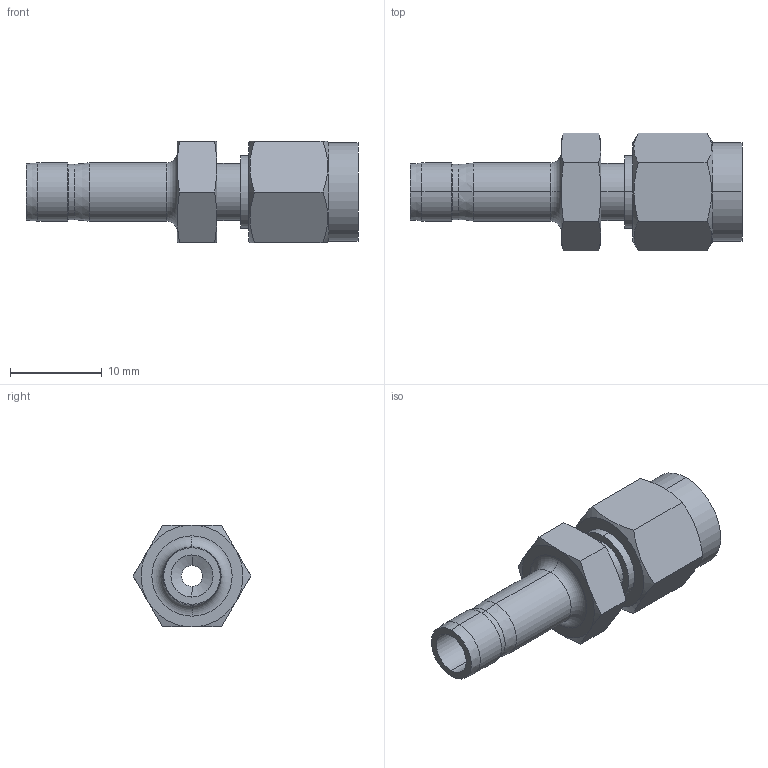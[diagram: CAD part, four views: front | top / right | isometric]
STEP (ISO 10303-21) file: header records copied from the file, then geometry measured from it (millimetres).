
FILE_DESCRIPTION (( 'STEP AP203' ), '1' );
FILE_NAME ('DRE02-04 SS.STEP', '2009-09-08T08:37:02', ( ' ' ), ( '' ), 'SwSTEP 2.0', 'SolidWorks 2008', '' );
FILE_SCHEMA (( 'CONFIG_CONTROL_DESIGN' ));
Length unit declared in the file: millimetre
Products named in the file (1): DRE02-04 SS
Bounding box: 36.2 x 12.83 x 11.11 mm (x, y, z)
Volume: 1889.4 mm3; surface area: 1760.9 mm2
Topology: 1 solids, 1 shells, 63 faces, 138 edges, 82 vertices
Faces by surface type: cone 24, plane 19, cylinder 18, torus 2
Entity records: 1901 total; most frequent: CARTESIAN_POINT 476, DIRECTION 282, ORIENTED_EDGE 276, EDGE_CURVE 138, AXIS2_PLACEMENT_3D 120, VERTEX_POINT 82, EDGE_LOOP 70, ADVANCED_FACE 63
